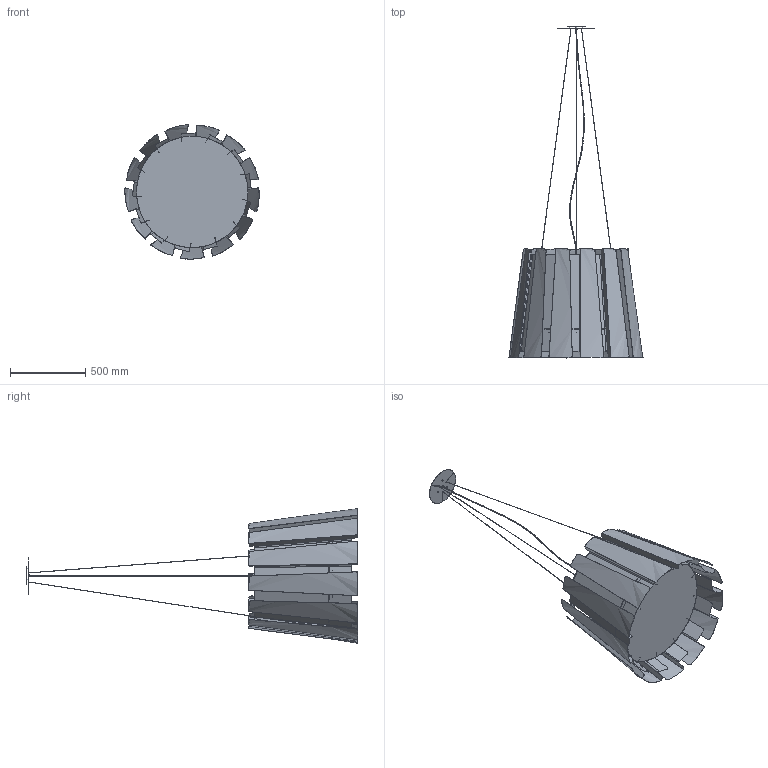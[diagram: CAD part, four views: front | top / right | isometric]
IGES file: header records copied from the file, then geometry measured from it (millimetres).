
Start section: SolidWorks IGES file using analytic representation for surfaces
Global section: file name: C:\Users\libre2.DOMINIO\Desktop\CARPYEN\3D\NAHTRANG\twist\twist L\twist XXL.IGS; native system: SolidWorks 2014; preprocessor: SolidWorks 2014; author: libre2; date: 160804.111815; units: millimetre
Bounding box: 892.34 x 2204.23 x 892.51 mm (x, y, z)
Surface area: 6318480.2 mm2 (no closed solid volume)
Topology: 0 solids, 0 shells, 1041 faces, 14349 edges, 14341 vertices
Faces by surface type: bspline 597, revolution 444
